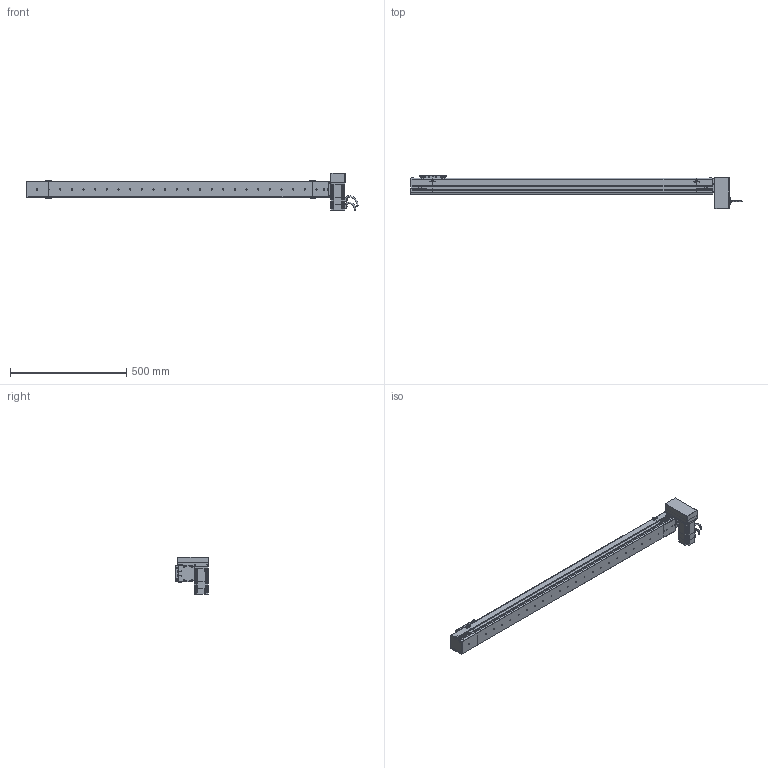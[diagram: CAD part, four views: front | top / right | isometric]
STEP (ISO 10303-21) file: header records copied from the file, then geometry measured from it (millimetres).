
FILE_DESCRIPTION (( 'STEP AP214' ), '1' );
FILE_NAME ('S07 CBN LU S1200.STEP', '2010-06-29T10:22:11', ( 'Conseil Régional Haute-Normandie' ), ( 'Conseil Régional Haute-Normandie' ), 'SwSTEP 2.0', 'SolidWorks 2010', '' );
FILE_SCHEMA (( 'AUTOMOTIVE_DESIGN' ));
Length unit declared in the file: millimetre
Products named in the file (31): 60BLDC90A-640_Default; Support Moteur LU_Default; Rondelle de Serrage LU_Default; Couvercle LU_Default; vis M5 L8_Default; support chariot_Default; chariot_Default; Chariot S07_Default; vis M5 L15_Default; Tail S07 Tail_Default; Couvercle S07 S1200_Default; plaque de serrage Tail_Default; Plaque de bout Tail_Default; Couvercle Tail_Default; Corp Tail_Default; Corp S07 S1200_Default; VisM3_Default; P1_Default; Conecteur2 60BLDC_Default; P3 90A_Default; P2 90A_Default; Conecteur 60BLDC_Default; Axe 60BLDC_Default; P4_Default; plaque de serrage LU_Default; S07 CBN LU S1200; Cache Support Moteur LU_Default; Plaque de bout LU_Default; Corp LU_Default; Head LU_Default
Assembly tree (71 placements, depth 4):
  S07 CBN LU S1200
    Chariot S07_Default
      vis M5 L8_Default  x8
      chariot_Default
      support chariot_Default
    Tail S07 Tail_Default
      vis M5 L15_Default  x6
      Corp Tail_Default
      Plaque de bout Tail_Default
      plaque de serrage Tail_Default
      Couvercle Tail_Default
    Corp S07 S1200_Default
      Couvercle S07 S1200_Default
      Corp S07 S1200_Default
    Head LU_Default
      vis M5 L15_Default  x16
      Couvercle LU_Default
      Rondelle de Serrage LU_Default  x3
      Cache Support Moteur LU_Default
      Plaque de bout LU_Default
      Support Moteur LU_Default
      plaque de serrage LU_Default
      Corp LU_Default
      60BLDC90A-640_Default
        VisM3_Default  x12
        Conecteur 60BLDC_Default
        P2 90A_Default
        P1_Default
        P3 90A_Default
        Axe 60BLDC_Default
        Conecteur2 60BLDC_Default
        P4_Default
Bounding box: 1425.7 x 142 x 162 mm (x, y, z)
Volume: 7041894.8 mm3; surface area: 845720.6 mm2
Topology: 108 solids, 108 shells, 3922 faces, 9650 edges, 6212 vertices
Faces by surface type: plane 2260, bspline 756, cylinder 695, torus 112, cone 95, sphere 4
Entity records: 154153 total; most frequent: CARTESIAN_POINT 79721, ORIENTED_EDGE 14820, DIRECTION 11123, EDGE_CURVE 7410, VERTEX_POINT 4897, LINE 4793, VECTOR 4793, EDGE_LOOP 3189
